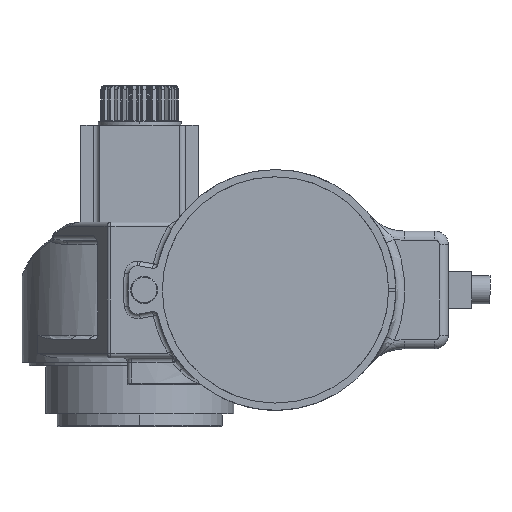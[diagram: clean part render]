
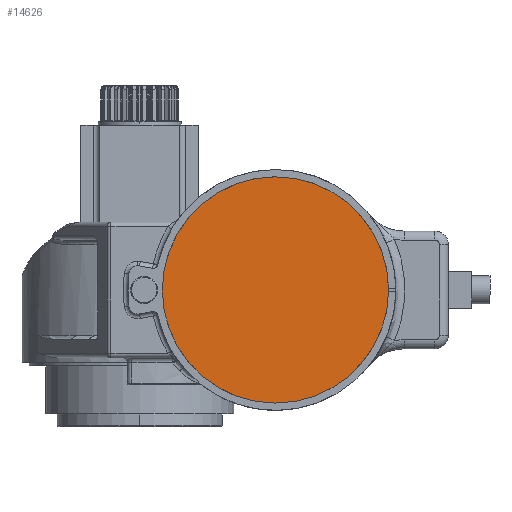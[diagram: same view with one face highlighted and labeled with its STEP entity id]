
A CAD part, front view. The second image highlights one B-rep face of the part: STEP entity #14626.
In plain terms, the highlighted planar face has unit normal (0, -1, 0).
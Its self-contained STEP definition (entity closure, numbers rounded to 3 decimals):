
#1816 = FACE_OUTER_BOUND ( 'NONE', #11704, .T. ) ;
#3354 = VERTEX_POINT ( 'NONE', #21044 ) ;
#4301 = CIRCLE ( 'NONE', #33299, 125. ) ;
#6039 = EDGE_CURVE ( 'NONE', #3354, #33683, #6740, .T. ) ;
#6740 = CIRCLE ( 'NONE', #46410, 125. ) ;
#7451 = ORIENTED_EDGE ( 'NONE', *, *, #27034, .F. ) ;
#10604 = DIRECTION ( 'NONE',  ( -1., 0., 0. ) ) ;
#11704 = EDGE_LOOP ( 'NONE', ( #44645, #7451 ) ) ;
#14626 = ADVANCED_FACE ( 'NONE', ( #1816 ), #45711, .T. ) ;
#21044 = CARTESIAN_POINT ( 'NONE',  ( 25., -215., 0. ) ) ;
#24082 = AXIS2_PLACEMENT_3D ( 'NONE', #36959, #33657, #42217 ) ;
#27034 = EDGE_CURVE ( 'NONE', #33683, #3354, #4301, .T. ) ;
#28596 = CARTESIAN_POINT ( 'NONE',  ( 150., -215., 0. ) ) ;
#33213 = DIRECTION ( 'NONE',  ( 0., 1., 0. ) ) ;
#33299 = AXIS2_PLACEMENT_3D ( 'NONE', #28596, #33213, #10604 ) ;
#33657 = DIRECTION ( 'NONE',  ( 0., -1., 0. ) ) ;
#33683 = VERTEX_POINT ( 'NONE', #36284 ) ;
#34986 = DIRECTION ( 'NONE',  ( -1., 0., 0. ) ) ;
#36284 = CARTESIAN_POINT ( 'NONE',  ( 275., -215., 0. ) ) ;
#36959 = CARTESIAN_POINT ( 'NONE',  ( 150., -215., 0. ) ) ;
#42217 = DIRECTION ( 'NONE',  ( 1., 0., 0. ) ) ;
#44645 = ORIENTED_EDGE ( 'NONE', *, *, #6039, .F. ) ;
#45711 = PLANE ( 'NONE',  #24082 ) ;
#46410 = AXIS2_PLACEMENT_3D ( 'NONE', #53199, #52436, #34986 ) ;
#52436 = DIRECTION ( 'NONE',  ( 0., 1., 0. ) ) ;
#53199 = CARTESIAN_POINT ( 'NONE',  ( 150., -215., 0. ) ) ;
